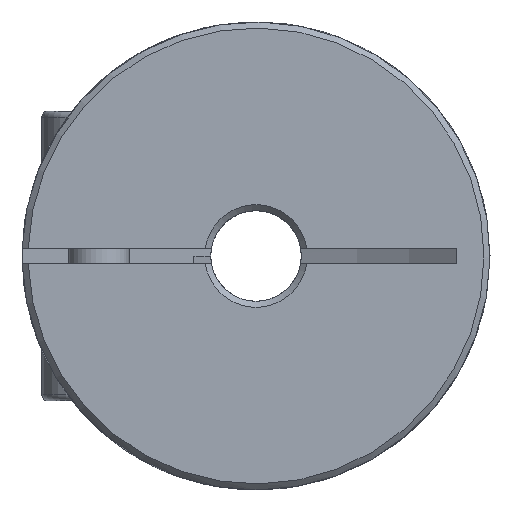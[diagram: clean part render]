
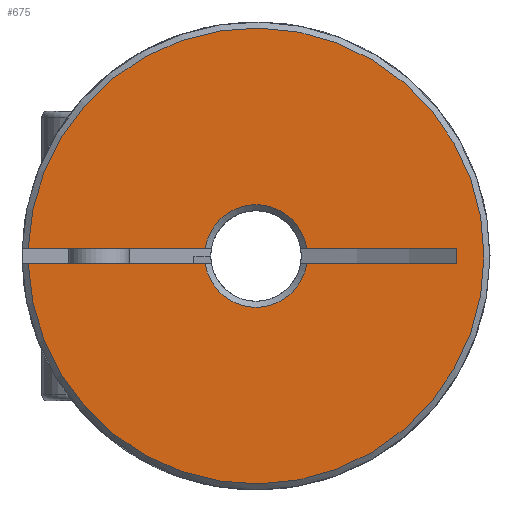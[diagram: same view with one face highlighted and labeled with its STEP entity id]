
A CAD part, left-side view. The second image highlights one B-rep face of the part: STEP entity #675.
In plain terms, the highlighted planar face has unit normal (-1, 0, 0).
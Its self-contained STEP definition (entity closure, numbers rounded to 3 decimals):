
#675 = ADVANCED_FACE( 'NONE', ( #1408 ), #1409, .F. );
#1408 = FACE_OUTER_BOUND( '', #2126, .T. );
#1409 = PLANE( '', #2127 );
#2126 = EDGE_LOOP( '', ( #3549, #3550, #3551, #3552, #3553, #3554, #3555, #3556 ) );
#2127 = AXIS2_PLACEMENT_3D( '', #3557, #3558, #3559 );
#3549 = ORIENTED_EDGE( '', *, *, #3851, .T. );
#3550 = ORIENTED_EDGE( '', *, *, #3990, .T. );
#3551 = ORIENTED_EDGE( '', *, *, #4173, .T. );
#3552 = ORIENTED_EDGE( '', *, *, #4088, .T. );
#3553 = ORIENTED_EDGE( '', *, *, #3868, .F. );
#3554 = ORIENTED_EDGE( '', *, *, #4066, .T. );
#3555 = ORIENTED_EDGE( '', *, *, #4078, .F. );
#3556 = ORIENTED_EDGE( '', *, *, #4006, .T. );
#3557 = CARTESIAN_POINT( '', ( 0., 1.5, 0. ) );
#3558 = DIRECTION( '', ( 1., 0., 0. ) );
#3559 = DIRECTION( '', ( 0., 1., 0. ) );
#3851 = EDGE_CURVE( 'NONE', #4530, #4528, #4531, .T. );
#3868 = EDGE_CURVE( 'NONE', #4554, #4556, #4557, .F. );
#3990 = EDGE_CURVE( 'NONE', #4528, #4737, #4739, .T. );
#4006 = EDGE_CURVE( 'NONE', #4760, #4530, #4763, .T. );
#4066 = EDGE_CURVE( 'NONE', #4554, #4846, #4848, .T. );
#4078 = EDGE_CURVE( 'NONE', #4760, #4846, #4861, .F. );
#4088 = EDGE_CURVE( 'NONE', #4874, #4556, #4875, .F. );
#4173 = EDGE_CURVE( 'NONE', #4737, #4874, #4972, .T. );
#4528 = VERTEX_POINT( 'NONE', #5517 );
#4530 = VERTEX_POINT( 'NONE', #5522 );
#4531 = LINE( '', #5523, #5524 );
#4554 = VERTEX_POINT( 'NONE', #5551 );
#4556 = VERTEX_POINT( 'NONE', #5556 );
#4557 = LINE( '', #5557, #5558 );
#4737 = VERTEX_POINT( 'NONE', #5773 );
#4739 = CIRCLE( '', #5778, 1.7 );
#4760 = VERTEX_POINT( 'NONE', #5800 );
#4763 = LINE( '', #5806, #5807 );
#4846 = VERTEX_POINT( 'NONE', #5923 );
#4848 = CIRCLE( '', #5928, 1.7 );
#4861 = LINE( '', #5941, #5942 );
#4874 = VERTEX_POINT( 'NONE', #5991 );
#4875 = CIRCLE( '', #5992, 7.55 );
#4972 = LINE( '', #6115, #6116 );
#5517 = CARTESIAN_POINT( '', ( 0., 1.682, 0.25 ) );
#5522 = CARTESIAN_POINT( '', ( 0., 6.624, 0.25 ) );
#5523 = CARTESIAN_POINT( '', ( 0., 1.5, 0.25 ) );
#5524 = VECTOR( '', #6489, 1000. );
#5551 = CARTESIAN_POINT( '', ( 0., -1.682, -0.25 ) );
#5556 = CARTESIAN_POINT( '', ( 0., -7.546, -0.25 ) );
#5557 = CARTESIAN_POINT( '', ( 0., -4.5, -0.25 ) );
#5558 = VECTOR( '', #6512, 1000. );
#5773 = CARTESIAN_POINT( '', ( 0., -1.682, 0.25 ) );
#5778 = AXIS2_PLACEMENT_3D( '', #6698, #6699, #6700 );
#5800 = CARTESIAN_POINT( '', ( 0., 6.624, -0.25 ) );
#5806 = CARTESIAN_POINT( '', ( 0., 6.624, -0.25 ) );
#5807 = VECTOR( '', #6723, 1000. );
#5923 = CARTESIAN_POINT( '', ( 0., 1.682, -0.25 ) );
#5928 = AXIS2_PLACEMENT_3D( '', #6827, #6828, #6829 );
#5941 = CARTESIAN_POINT( '', ( 0., -4.5, -0.25 ) );
#5942 = VECTOR( '', #6839, 1000. );
#5991 = CARTESIAN_POINT( '', ( 0., -7.546, 0.25 ) );
#5992 = AXIS2_PLACEMENT_3D( '', #6847, #6848, #6849 );
#6115 = CARTESIAN_POINT( '', ( 0., 1.5, 0.25 ) );
#6116 = VECTOR( '', #6912, 1000. );
#6489 = DIRECTION( '', ( 0., -1., 0. ) );
#6512 = DIRECTION( '', ( 0., 1., 0. ) );
#6698 = CARTESIAN_POINT( '', ( 0., 0., 0. ) );
#6699 = DIRECTION( '', ( 1., 0., 0. ) );
#6700 = DIRECTION( '', ( 0., 0., -1. ) );
#6723 = DIRECTION( '', ( 0., 0., 1. ) );
#6827 = CARTESIAN_POINT( '', ( 0., 0., 0. ) );
#6828 = DIRECTION( '', ( 1., 0., 0. ) );
#6829 = DIRECTION( '', ( 0., 0., -1. ) );
#6839 = DIRECTION( '', ( 0., 1., 0. ) );
#6847 = CARTESIAN_POINT( '', ( 0., 0., 0. ) );
#6848 = DIRECTION( '', ( 1., 0., 0. ) );
#6849 = DIRECTION( '', ( 0., 0., -1. ) );
#6912 = DIRECTION( '', ( 0., -1., 0. ) );
